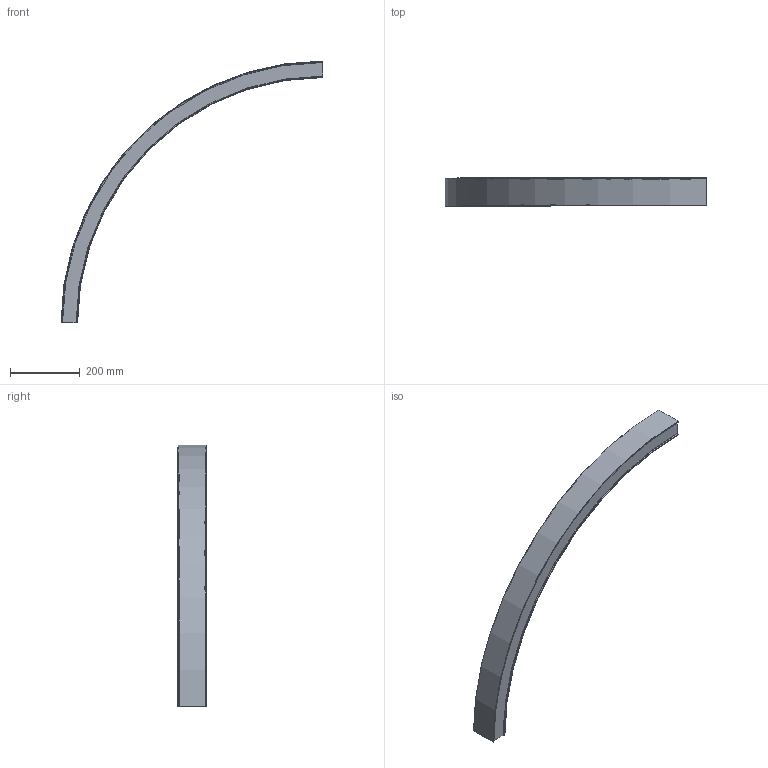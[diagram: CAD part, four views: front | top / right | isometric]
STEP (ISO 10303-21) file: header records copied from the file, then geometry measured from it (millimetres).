
FILE_DESCRIPTION (( 'STEP AP203' ), '1' );
FILE_NAME ('mLight_Swerve 47_R725 90deg.STEP', '2020-03-31T23:26:24', ( '' ), ( '' ), 'SwSTEP 2.0', 'SolidWorks 2017', '' );
FILE_SCHEMA (( 'CONFIG_CONTROL_DESIGN' ));
Length unit declared in the file: millimetre
Products named in the file (1): mLight_Swerve 47_R725 90deg
Bounding box: 748.5 x 80.63 x 748.5 mm (x, y, z)
Volume: 4105819 mm3; surface area: 321636.8 mm2
Topology: 1 solids, 1 shells, 46 faces, 132 edges, 88 vertices
Faces by surface type: torus 24, plane 10, cylinder 6, cone 6
Entity records: 1645 total; most frequent: DIRECTION 318, CARTESIAN_POINT 267, ORIENTED_EDGE 264, AXIS2_PLACEMENT_3D 139, EDGE_CURVE 132, CIRCLE 92, VERTEX_POINT 88, FACE_OUTER_BOUND 46
